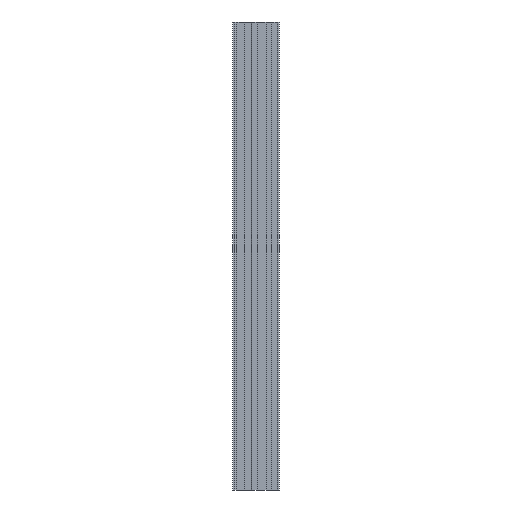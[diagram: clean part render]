
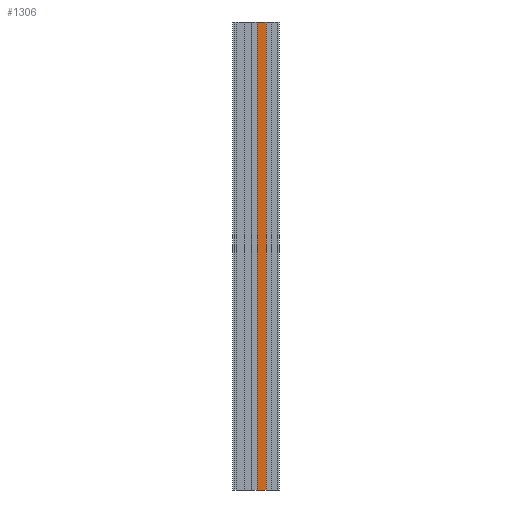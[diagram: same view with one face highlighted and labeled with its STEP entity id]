
A CAD part, front view. The second image highlights one B-rep face of the part: STEP entity #1306.
In plain terms, the highlighted planar face has unit normal (0, -1, 0).
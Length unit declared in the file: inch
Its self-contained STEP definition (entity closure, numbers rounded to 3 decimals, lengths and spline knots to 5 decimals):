
#25=PLANE('',#1435);
#76=FACE_OUTER_BOUND('',#144,.T.);
#144=EDGE_LOOP('',(#1007,#1008,#1009,#1010));
#228=LINE('',#2017,#370);
#260=LINE('',#2109,#402);
#261=LINE('',#2113,#403);
#262=LINE('',#2114,#404);
#370=VECTOR('',#1592,0.3937);
#402=VECTOR('',#1688,0.3937);
#403=VECTOR('',#1693,0.3937);
#404=VECTOR('',#1694,0.3937);
#590=VERTEX_POINT('',#2014);
#591=VERTEX_POINT('',#2016);
#619=VERTEX_POINT('',#2108);
#620=VERTEX_POINT('',#2112);
#724=EDGE_CURVE('',#591,#590,#228,.T.);
#770=EDGE_CURVE('',#591,#619,#260,.T.);
#772=EDGE_CURVE('',#620,#590,#261,.T.);
#773=EDGE_CURVE('',#619,#620,#262,.T.);
#1007=ORIENTED_EDGE('',*,*,#770,.F.);
#1008=ORIENTED_EDGE('',*,*,#724,.T.);
#1009=ORIENTED_EDGE('',*,*,#772,.F.);
#1010=ORIENTED_EDGE('',*,*,#773,.F.);
#1306=ADVANCED_FACE('',(#76),#25,.T.);
#1435=AXIS2_PLACEMENT_3D('',#2111,#1691,#1692);
#1592=DIRECTION('',(1.,0.,0.));
#1688=DIRECTION('',(0.,0.,1.));
#1691=DIRECTION('center_axis',(0.,-1.,0.));
#1692=DIRECTION('ref_axis',(1.,0.,0.));
#1693=DIRECTION('',(0.,0.,-1.));
#1694=DIRECTION('',(1.,0.,0.));
#2014=CARTESIAN_POINT('',(-4.30984,0.98,0.));
#2016=CARTESIAN_POINT('',(-6.97984,0.98,0.));
#2017=CARTESIAN_POINT('',(-6.99984,0.98,0.));
#2108=CARTESIAN_POINT('',(-6.97984,0.98,144.));
#2109=CARTESIAN_POINT('',(-6.97984,0.98,0.));
#2111=CARTESIAN_POINT('Origin',(-6.99984,0.98,0.));
#2112=CARTESIAN_POINT('',(-4.30984,0.98,144.));
#2113=CARTESIAN_POINT('',(-4.30984,0.98,0.));
#2114=CARTESIAN_POINT('',(-6.99984,0.98,144.));
